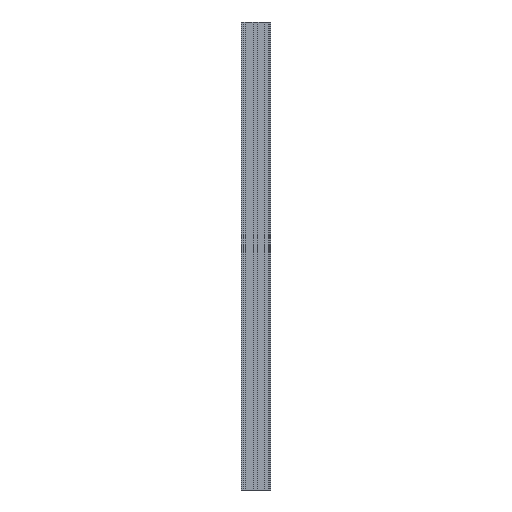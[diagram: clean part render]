
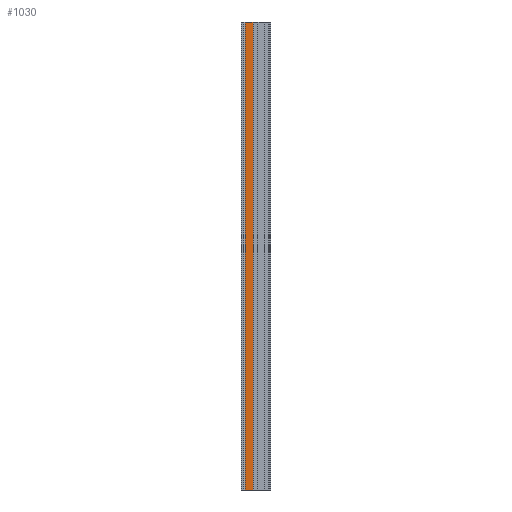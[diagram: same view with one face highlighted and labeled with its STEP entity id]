
A CAD part, front view. The second image highlights one B-rep face of the part: STEP entity #1030.
In plain terms, the highlighted planar face has unit normal (0, -1, 0).
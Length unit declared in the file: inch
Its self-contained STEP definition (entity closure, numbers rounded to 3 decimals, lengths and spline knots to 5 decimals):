
#45=PLANE('',#1143);
#96=FACE_OUTER_BOUND('',#148,.T.);
#148=EDGE_LOOP('',(#903,#904,#905,#906));
#156=LINE('',#1464,#266);
#161=LINE('',#1476,#271);
#259=LINE('',#1741,#369);
#260=LINE('',#1742,#370);
#266=VECTOR('',#1166,0.3937);
#271=VECTOR('',#1177,0.3937);
#369=VECTOR('',#1435,0.3937);
#370=VECTOR('',#1436,0.3937);
#418=VERTEX_POINT('',#1461);
#419=VERTEX_POINT('',#1463);
#423=VERTEX_POINT('',#1475);
#510=VERTEX_POINT('',#1740);
#519=EDGE_CURVE('',#418,#419,#156,.T.);
#525=EDGE_CURVE('',#423,#419,#161,.T.);
#658=EDGE_CURVE('',#510,#418,#259,.T.);
#659=EDGE_CURVE('',#423,#510,#260,.T.);
#903=ORIENTED_EDGE('',*,*,#519,.F.);
#904=ORIENTED_EDGE('',*,*,#658,.F.);
#905=ORIENTED_EDGE('',*,*,#659,.F.);
#906=ORIENTED_EDGE('',*,*,#525,.T.);
#1030=ADVANCED_FACE('',(#96),#45,.T.);
#1143=AXIS2_PLACEMENT_3D('',#1739,#1433,#1434);
#1166=DIRECTION('',(0.,0.,-1.));
#1177=DIRECTION('',(1.,0.,0.));
#1433=DIRECTION('center_axis',(0.,-1.,0.));
#1434=DIRECTION('ref_axis',(1.,0.,0.));
#1435=DIRECTION('',(1.,0.,0.));
#1436=DIRECTION('',(0.,0.,1.));
#1461=CARTESIAN_POINT('',(-10.83027,0.00207,144.));
#1463=CARTESIAN_POINT('',(-10.83027,0.00207,0.));
#1464=CARTESIAN_POINT('',(-10.83027,0.00207,0.));
#1475=CARTESIAN_POINT('',(-13.26984,0.00207,0.));
#1476=CARTESIAN_POINT('',(-13.26984,0.00207,0.));
#1739=CARTESIAN_POINT('Origin',(-13.26984,0.00207,0.));
#1740=CARTESIAN_POINT('',(-13.26984,0.00207,144.));
#1741=CARTESIAN_POINT('',(-13.26984,0.00207,144.));
#1742=CARTESIAN_POINT('',(-13.26984,0.00207,0.));
